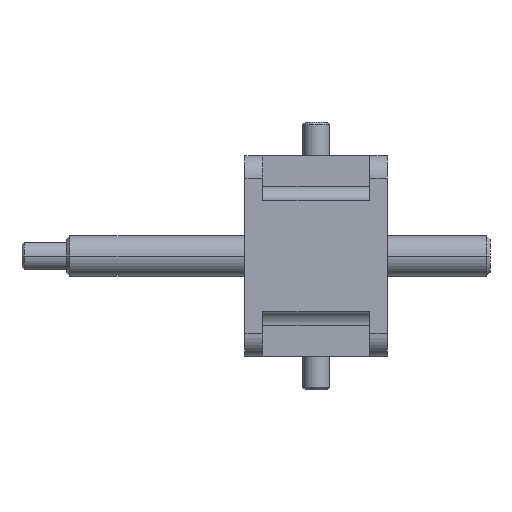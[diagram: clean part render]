
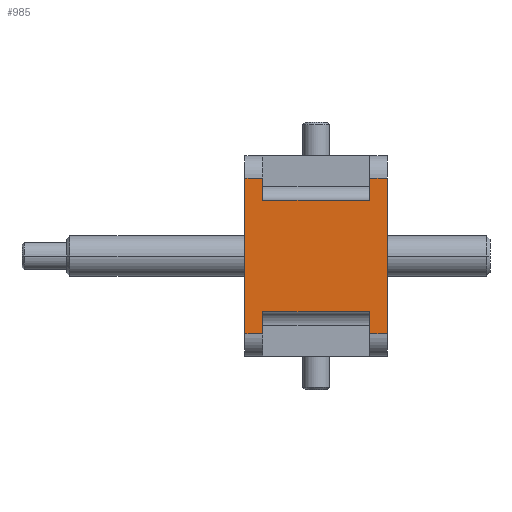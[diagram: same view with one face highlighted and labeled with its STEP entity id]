
A CAD part, left-side view. The second image highlights one B-rep face of the part: STEP entity #985.
In plain terms, the highlighted planar face has unit normal (-1, 0, 0).
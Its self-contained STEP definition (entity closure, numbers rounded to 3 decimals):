
#742 = VERTEX_POINT ( 'NONE', #2345 ) ;
#982 = VERTEX_POINT ( 'NONE', #2878 ) ;
#984 = EDGE_CURVE ( 'NONE', #1098, #982, #2877, .T. ) ;
#985 = ADVANCED_FACE ( 'NONE', ( #2873 ), #2872, .F. ) ;
#986 = EDGE_LOOP ( 'NONE', ( #987, #990, #1043, #1046, #1073, #1076, #1134, #1129, #1137, #1140, #1141, #1131 ) ) ;
#987 = ORIENTED_EDGE ( 'NONE', *, *, #988, .F. ) ;
#988 = EDGE_CURVE ( 'NONE', #1098, #989, #2867, .T. ) ;
#989 = VERTEX_POINT ( 'NONE', #2863 ) ;
#990 = ORIENTED_EDGE ( 'NONE', *, *, #984, .T. ) ;
#1043 = ORIENTED_EDGE ( 'NONE', *, *, #1044, .T. ) ;
#1044 = EDGE_CURVE ( 'NONE', #982, #1045, #2994, .T. ) ;
#1045 = VERTEX_POINT ( 'NONE', #3054 ) ;
#1046 = ORIENTED_EDGE ( 'NONE', *, *, #1047, .F. ) ;
#1047 = EDGE_CURVE ( 'NONE', #742, #1045, #3053, .T. ) ;
#1070 = VERTEX_POINT ( 'NONE', #3074 ) ;
#1071 = EDGE_CURVE ( 'NONE', #1072, #1080, #3073, .T. ) ;
#1072 = VERTEX_POINT ( 'NONE', #3069 ) ;
#1073 = ORIENTED_EDGE ( 'NONE', *, *, #1127, .F. ) ;
#1074 = EDGE_CURVE ( 'NONE', #1070, #1128, #3068, .T. ) ;
#1075 = EDGE_CURVE ( 'NONE', #1128, #1130, #3064, .T. ) ;
#1076 = ORIENTED_EDGE ( 'NONE', *, *, #1074, .T. ) ;
#1080 = VERTEX_POINT ( 'NONE', #3116 ) ;
#1084 = VERTEX_POINT ( 'NONE', #3110 ) ;
#1085 = EDGE_CURVE ( 'NONE', #1080, #1130, #3109, .T. ) ;
#1098 = VERTEX_POINT ( 'NONE', #3144 ) ;
#1127 = EDGE_CURVE ( 'NONE', #1070, #742, #3178, .T. ) ;
#1128 = VERTEX_POINT ( 'NONE', #3174 ) ;
#1129 = ORIENTED_EDGE ( 'NONE', *, *, #1085, .F. ) ;
#1130 = VERTEX_POINT ( 'NONE', #3173 ) ;
#1131 = ORIENTED_EDGE ( 'NONE', *, *, #1132, .F. ) ;
#1132 = EDGE_CURVE ( 'NONE', #989, #1142, #3172, .T. ) ;
#1134 = ORIENTED_EDGE ( 'NONE', *, *, #1075, .T. ) ;
#1135 = EDGE_CURVE ( 'NONE', #1072, #1084, #3168, .T. ) ;
#1136 = EDGE_CURVE ( 'NONE', #1084, #1142, #3164, .T. ) ;
#1137 = ORIENTED_EDGE ( 'NONE', *, *, #1071, .F. ) ;
#1140 = ORIENTED_EDGE ( 'NONE', *, *, #1135, .T. ) ;
#1141 = ORIENTED_EDGE ( 'NONE', *, *, #1136, .T. ) ;
#1142 = VERTEX_POINT ( 'NONE', #3155 ) ;
#2345 = CARTESIAN_POINT ( 'NONE',  ( -57.404, 8., 33.48 ) ) ;
#2863 = CARTESIAN_POINT ( 'NONE',  ( -57.404, 8., -26.52 ) ) ;
#2864 = DIRECTION ( 'NONE',  ( 0., 0., 1. ) ) ;
#2865 = VECTOR ( 'NONE', #2864, 1000. ) ;
#2866 = CARTESIAN_POINT ( 'NONE',  ( -57.404, 8., -46.52 ) ) ;
#2867 = LINE ( 'NONE', #2866, #2865 ) ;
#2868 = DIRECTION ( 'NONE',  ( 0., 0., -1. ) ) ;
#2869 = DIRECTION ( 'NONE',  ( 1., 0., 0. ) ) ;
#2870 = AXIS2_PLACEMENT_3D ( 'NONE', #2871, #2869, #2868 ) ;
#2871 = CARTESIAN_POINT ( 'NONE',  ( -57.404, 64., -36.52 ) ) ;
#2872 = PLANE ( 'NONE',  #2870 ) ;
#2873 = FACE_OUTER_BOUND ( 'NONE', #986, .T. ) ;
#2874 = DIRECTION ( 'NONE',  ( 0., -1., 0. ) ) ;
#2875 = VECTOR ( 'NONE', #2874, 1000. ) ;
#2876 = CARTESIAN_POINT ( 'NONE',  ( -57.404, 64., -36.52 ) ) ;
#2877 = LINE ( 'NONE', #2876, #2875 ) ;
#2878 = CARTESIAN_POINT ( 'NONE',  ( -57.404, 0., -36.52 ) ) ;
#2993 = CARTESIAN_POINT ( 'NONE',  ( -57.404, 0., -36.52 ) ) ;
#2994 = LINE ( 'NONE', #2993, #3056 ) ;
#3050 = DIRECTION ( 'NONE',  ( 0., -1., 0. ) ) ;
#3051 = VECTOR ( 'NONE', #3050, 1000. ) ;
#3052 = CARTESIAN_POINT ( 'NONE',  ( -57.404, 64., 33.48 ) ) ;
#3053 = LINE ( 'NONE', #3052, #3051 ) ;
#3054 = CARTESIAN_POINT ( 'NONE',  ( -57.404, 0., 33.48 ) ) ;
#3055 = DIRECTION ( 'NONE',  ( 0., 0., 1. ) ) ;
#3056 = VECTOR ( 'NONE', #3055, 1000. ) ;
#3061 = DIRECTION ( 'NONE',  ( 0., 0., 1. ) ) ;
#3062 = VECTOR ( 'NONE', #3061, 1000. ) ;
#3063 = CARTESIAN_POINT ( 'NONE',  ( -57.404, 56., 43.48 ) ) ;
#3064 = LINE ( 'NONE', #3063, #3062 ) ;
#3065 = DIRECTION ( 'NONE',  ( 0., 1., 0. ) ) ;
#3066 = VECTOR ( 'NONE', #3065, 1000. ) ;
#3067 = CARTESIAN_POINT ( 'NONE',  ( -57.404, 8., 23.48 ) ) ;
#3068 = LINE ( 'NONE', #3067, #3066 ) ;
#3069 = CARTESIAN_POINT ( 'NONE',  ( -57.404, 64., -36.52 ) ) ;
#3070 = DIRECTION ( 'NONE',  ( 0., 0., 1. ) ) ;
#3071 = VECTOR ( 'NONE', #3070, 1000. ) ;
#3072 = CARTESIAN_POINT ( 'NONE',  ( -57.404, 64., -36.52 ) ) ;
#3073 = LINE ( 'NONE', #3072, #3071 ) ;
#3074 = CARTESIAN_POINT ( 'NONE',  ( -57.404, 8., 23.48 ) ) ;
#3106 = DIRECTION ( 'NONE',  ( 0., -1., 0. ) ) ;
#3107 = VECTOR ( 'NONE', #3106, 1000. ) ;
#3108 = CARTESIAN_POINT ( 'NONE',  ( -57.404, 64., 33.48 ) ) ;
#3109 = LINE ( 'NONE', #3108, #3107 ) ;
#3110 = CARTESIAN_POINT ( 'NONE',  ( -57.404, 56., -36.52 ) ) ;
#3116 = CARTESIAN_POINT ( 'NONE',  ( -57.404, 64., 33.48 ) ) ;
#3144 = CARTESIAN_POINT ( 'NONE',  ( -57.404, 8., -36.52 ) ) ;
#3155 = CARTESIAN_POINT ( 'NONE',  ( -57.404, 56., -26.52 ) ) ;
#3161 = DIRECTION ( 'NONE',  ( 0., 0., 1. ) ) ;
#3162 = VECTOR ( 'NONE', #3161, 1000. ) ;
#3163 = CARTESIAN_POINT ( 'NONE',  ( -57.404, 56., -46.52 ) ) ;
#3164 = LINE ( 'NONE', #3163, #3162 ) ;
#3165 = DIRECTION ( 'NONE',  ( 0., -1., 0. ) ) ;
#3166 = VECTOR ( 'NONE', #3165, 1000. ) ;
#3167 = CARTESIAN_POINT ( 'NONE',  ( -57.404, 64., -36.52 ) ) ;
#3168 = LINE ( 'NONE', #3167, #3166 ) ;
#3169 = DIRECTION ( 'NONE',  ( 0., 1., 0. ) ) ;
#3170 = VECTOR ( 'NONE', #3169, 1000. ) ;
#3171 = CARTESIAN_POINT ( 'NONE',  ( -57.404, 8., -26.52 ) ) ;
#3172 = LINE ( 'NONE', #3171, #3170 ) ;
#3173 = CARTESIAN_POINT ( 'NONE',  ( -57.404, 56., 33.48 ) ) ;
#3174 = CARTESIAN_POINT ( 'NONE',  ( -57.404, 56., 23.48 ) ) ;
#3175 = DIRECTION ( 'NONE',  ( 0., 0., 1. ) ) ;
#3176 = VECTOR ( 'NONE', #3175, 1000. ) ;
#3177 = CARTESIAN_POINT ( 'NONE',  ( -57.404, 8., 43.48 ) ) ;
#3178 = LINE ( 'NONE', #3177, #3176 ) ;
